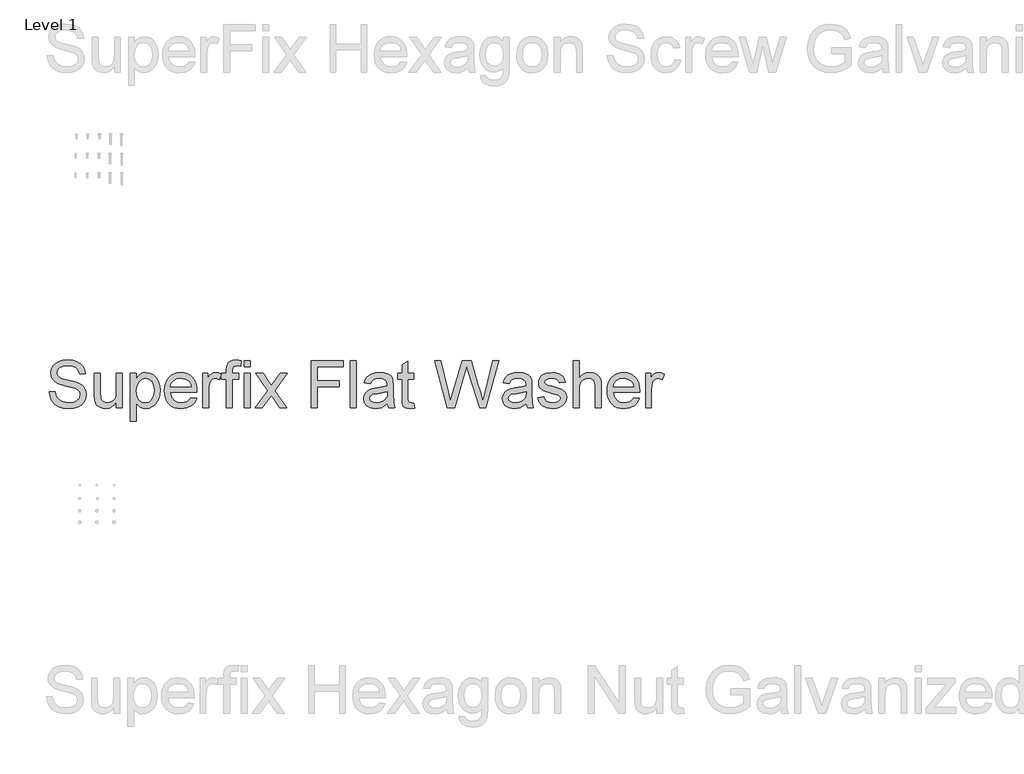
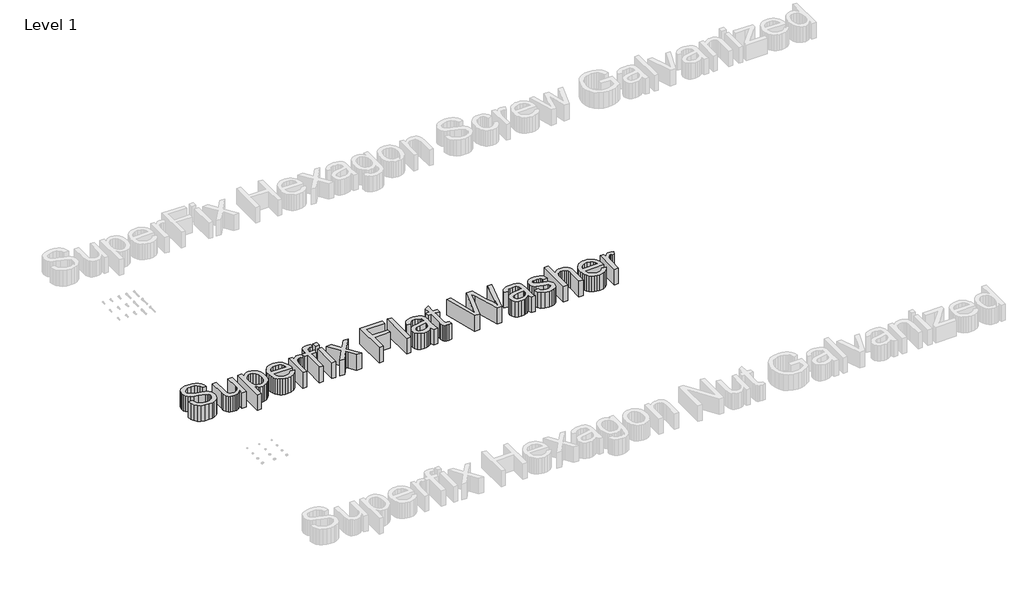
# One storey, part 18 of 32: 1 proxy.
"""IFC4 building model written with IfcOpenShell, lengths in millimetres."""

from ifc_helpers import new_model, si_unit, origin, origin_with_axes, place, context, project, spatial, polyline, outline, extrude, element, save

model = new_model("IFC4")

# Units and contexts
model_context = context("Model", 3, world=origin())
ifc_project = project(units=[si_unit("LENGTHUNIT", "METRE", prefix="MILLI")], contexts=[model_context])

# Site, building, storey
site = spatial("IfcSite", under=ifc_project)
building = spatial("IfcBuilding", under=site)
storey = spatial("IfcBuildingStorey", under=building, Name="Level 1", Elevation=0.0)

# Proxy
placement = place(None, origin())
element("IfcBuildingElementProxy", 1, Name="300mm Arial 2", ObjectType="300mm Arial 2", at=placement, inside=storey, context=model_context, shape_type="SweptSolid", body=[
    extrude(outline(polyline([(-40564.5247178, 12550.5833621), (-40526.8536015, 12550.5833621), (-40522.5309881, 12529.6784678), (-40514.7134957, 12512.8754576), (-40502.5182075, 12499.5397353), (-40485.0622069, 12489.0367044), (-40463.7250512, 12482.2216904), (-40439.8862979, 12479.9500191), (-40418.89863, 12481.6698674), (-40400.5229244, 12486.8294124), (-40385.6329006, 12494.9963927), (-40375.1022785, 12505.7385469), (-40368.8390875, 12518.0717908), (-40366.7513572, 12531.01204), (-40368.3148557, 12543.6211954), (-40373.0053511, 12554.5196995), (-40382.5334948, 12563.8179169), (-40398.609938, 12571.6262123), (-40453.4611435, 12586.0103983), (-40489.4675938, 12595.5293449), (-40512.5062037, 12604.588439), (-40531.2589884, 12617.2619738), (-40544.5487255, 12632.6210471), (-40552.4673854, 12650.3345651), (-40555.1069388, 12670.0714342), (-40551.841986, 12692.1351568), (-40542.0471279, 12712.7089574), (-40525.9798818, 12730.146564), (-40503.897765, 12742.8017046), (-40477.3918673, 12750.4996354), (-40448.0532782, 12753.0656123), (-40416.2682738, 12750.3800737), (-40388.4563949, 12742.323458), (-40365.610923, 12729.0613121), (-40348.7251395, 12710.7591828), (-40338.0381675, 12688.5575044), (-40333.7891305, 12663.5967111), (-40371.4602468, 12663.5967111), (-40378.3764283, 12686.074301), (-40392.7974025, 12702.297897), (-40415.3301747, 12712.1203462), (-40446.5817502, 12715.394496), (-40478.5690897, 12712.1571344), (-40500.5132507, 12702.4450498), (-40513.2051795, 12688.1528342), (-40517.4358224, 12671.1750802), (-40514.4375842, 12656.6989237), (-40505.4428694, 12645.0554585), (-40484.1792901, 12634.644398), (-40443.9329998, 12624.0126084), (-40402.3991226, 12613.9142476), (-40377.2727823, 12605.1034738), (-40355.7976708, 12591.4366577), (-40340.8156766, 12574.5692682), (-40332.0140998, 12554.6852464), (-40329.0802409, 12531.9685332), (-40332.4555582, 12508.7459822), (-40342.5815101, 12486.9029888), (-40359.0442294, 12468.1042188), (-40381.4298488, 12454.0143384), (-40408.3496138, 12445.2127617), (-40438.4147699, 12442.2789028), (-40475.322531, 12445.4426879), (-40505.7003868, 12454.9340434), (-40529.897825, 12470.7897574), (-40548.2643336, 12493.0466181), (-40560.0549516, 12520.1595211), (-40564.5247178, 12550.5833621)])), origin_with_axes(), (0.0, 0.0, 1.0), 150.0),
    extrude(outline(polyline([(-40136.0157698, 12446.9877923), (-40136.0157698, 12485.0267906), (-40149.6457978, 12466.3245897), (-40165.5199059, 12452.9658747), (-40183.6380941, 12444.9506458), (-40204.0003626, 12442.2789028), (-40222.3484771, 12444.1551009), (-40239.4273987, 12449.7836955), (-40253.7564024, 12458.2449814), (-40263.8547632, 12468.6192536), (-40275.075164, 12496.3575561), (-40277.282456, 12531.379922), (-40277.282456, 12668.3056006), (-40239.6113397, 12668.3056006), (-40239.6113397, 12549.1118342), (-40237.3304713, 12510.7049539), (-40231.8398325, 12497.8934634), (-40222.4312505, 12488.1537876), (-40209.7301246, 12482.0009612), (-40194.3618543, 12479.9500191), (-40178.1106671, 12482.0469464), (-40162.9079437, 12488.3377286), (-40150.3723647, 12498.2429513), (-40142.122611, 12511.1832005), (-40137.5424801, 12528.9059156), (-40136.0157698, 12553.1585361), (-40136.0157698, 12668.3056006), (-40098.3446535, 12668.3056006), (-40098.3446535, 12446.9877923), (-40136.0157698, 12446.9877923)])), origin_with_axes(), (0.0, 0.0, 1.0), 150.0),
    extrude(outline(polyline([(-40046.5468686, 12362.2277806), (-40046.5468686, 12668.3056006), (-40008.8757523, 12668.3056006), (-40008.8757523, 12631.3702483), (-39996.5884937, 12649.5896041), (-39982.8297071, 12662.6034297), (-39966.7900521, 12670.411725), (-39947.6601883, 12673.0144901), (-39922.1843602, 12669.3724584), (-39899.9091053, 12658.4463631), (-39881.772523, 12640.898392), (-39868.7127122, 12617.3907325), (-39860.8216434, 12589.6340359), (-39858.1912871, 12559.3389536), (-39861.1619342, 12527.1216879), (-39870.0738755, 12498.3073306), (-39884.6420025, 12474.3582127), (-39904.5812067, 12456.7366652), (-39927.8037576, 12445.8933434), (-39952.2219251, 12442.2789028), (-39969.53997, 12444.6977269), (-39985.0002108, 12451.9541992), (-39998.2347656, 12462.9078856), (-40008.8757523, 12476.4183519), (-40008.8757523, 12362.2277806), (-40046.5468686, 12362.2277806)]), holes=[polyline([(-40008.8757523, 12555.8808629), (-40004.8014592, 12522.1092957), (-39992.5785799, 12498.4912716), (-39974.5431651, 12484.5853322), (-39953.0312654, 12479.9500191), (-39931.1698779, 12484.7508791), (-39912.6746106, 12499.1534592), (-39900.0654552, 12523.636006), (-39895.8624034, 12558.676766), (-39899.9642876, 12592.2643922), (-39912.2699404, 12616.2135101), (-39930.277764, 12630.5609079), (-39951.4861611, 12635.3433738), (-39972.7773315, 12630.2574053), (-39991.4749339, 12614.9994995), (-40004.5255477, 12590.0479032), (-40008.8757523, 12555.8808629)])]), origin_with_axes(), (0.0, 0.0, 1.0), 150.0),
    extrude(outline(polyline([(-39660.8593849, 12512.9122458), (-39623.9240326, 12508.2033563), (-39637.2321637, 12480.3730834), (-39658.4681519, 12459.5693565), (-39687.1537505, 12446.6015162), (-39722.8107129, 12442.2789028), (-39746.1850151, 12444.1436046), (-39767.0117346, 12449.7377102), (-39785.2908712, 12459.0612195), (-39801.022425, 12472.1141326), (-39813.6729671, 12488.5331659), (-39822.7090687, 12507.955036), (-39828.1307296, 12530.3797428), (-39829.9379499, 12555.8072865), (-39828.1123355, 12582.0970536), (-39822.6354923, 12605.2690207), (-39813.5074203, 12625.323188), (-39800.7281194, 12642.2595553), (-39785.0379523, 12655.7148393), (-39767.1772815, 12665.3257564), (-39747.1461068, 12671.0923067), (-39724.9444284, 12673.0144901), (-39703.4578207, 12671.0969052), (-39684.0267535, 12665.3441505), (-39666.651227, 12655.756226), (-39651.3312412, 12642.3331317), (-39638.8255526, 12625.4335526), (-39629.8929179, 12605.4161735), (-39624.5333371, 12582.2809946), (-39622.7468102, 12556.0280157), (-39622.9675394, 12545.8744726), (-39792.2668336, 12545.8744726), (-39785.7461252, 12517.6763177), (-39770.598584, 12496.9461673), (-39748.7371965, 12484.1990561), (-39722.0749489, 12479.9500191), (-39702.0253801, 12481.9181878), (-39685.1395966, 12487.8226938), (-39671.4175981, 12498.0314191), (-39660.8593849, 12512.9122458)]), holes=[polyline([(-39792.2668336, 12583.5455889), (-39660.4179265, 12583.5455889), (-39665.5130921, 12603.4480049), (-39675.5010883, 12617.6850381), (-39697.4636434, 12630.9287899), (-39725.0915812, 12635.3433738), (-39750.484636, 12631.8209037), (-39771.4815008, 12621.2534934), (-39786.077219, 12604.7815771), (-39792.2668336, 12583.5455889)])]), origin_with_axes(), (0.0, 0.0, 1.0), 150.0),
    extrude(outline(polyline([(-39585.0756939, 12446.9877923), (-39585.0756939, 12668.3056006), (-39552.1134671, 12668.3056006), (-39552.1134671, 12635.564103), (-39539.9365731, 12654.546814), (-39528.7161722, 12665.7304266), (-39517.4589832, 12671.1934743), (-39505.1717245, 12673.0144901), (-39486.4097428, 12670.1082224), (-39467.3534554, 12661.3894191), (-39479.9350196, 12627.6178519), (-39493.1787715, 12633.4119934), (-39506.4225233, 12635.3433738), (-39517.6705153, 12633.4855698), (-39527.7228908, 12627.9121575), (-39535.8438859, 12619.0462015), (-39541.2977364, 12607.3107658), (-39545.8778673, 12586.2679157), (-39547.4045776, 12563.3120792), (-39547.4045776, 12446.9877923), (-39585.0756939, 12446.9877923)])), origin_with_axes(), (0.0, 0.0, 1.0), 150.0),
    extrude(outline(polyline([(-39434.3912286, 12446.9877923), (-39434.3912286, 12630.6344843), (-39467.3534554, 12630.6344843), (-39467.3534554, 12668.3056006), (-39434.3912286, 12668.3056006), (-39434.3912286, 12690.5992495), (-39430.4181031, 12722.0163719), (-39422.839734, 12734.5427538), (-39411.1410866, 12744.4571736), (-39394.7703378, 12750.9135026), (-39373.1756646, 12753.0656123), (-39338.8154863, 12748.9453339), (-39344.3337162, 12713.6286624), (-39366.0387539, 12715.394496), (-39380.3585606, 12713.8309975), (-39389.7671426, 12709.1405021), (-39394.9818699, 12700.1825755), (-39396.7201123, 12685.8167836), (-39396.7201123, 12668.3056006), (-39354.3401065, 12668.3056006), (-39354.3401065, 12630.6344843), (-39396.7201123, 12630.6344843), (-39396.7201123, 12446.9877923), (-39434.3912286, 12446.9877923)])), origin_with_axes(), (0.0, 0.0, 1.0), 150.0),
    extrude(outline(polyline([(-39321.3778797, 12446.9877923), (-39321.3778797, 12668.3056006), (-39283.7067634, 12668.3056006), (-39283.7067634, 12446.9877923), (-39321.3778797, 12446.9877923)])), origin_with_axes(), (0.0, 0.0, 1.0), 150.0),
    extrude(outline(polyline([(-39321.3778797, 12710.6856065), (-39321.3778797, 12748.3567228), (-39283.7067634, 12748.3567228), (-39283.7067634, 12710.6856065), (-39321.3778797, 12710.6856065)])), origin_with_axes(), (0.0, 0.0, 1.0), 150.0),
    extrude(outline(polyline([(-39250.7445367, 12446.9877923), (-39170.2519561, 12558.2353076), (-39246.0356471, 12668.3056006), (-39200.7125853, 12668.3056006), (-39164.145115, 12615.3305933), (-39147.0753904, 12590.3146176), (-39132.2865342, 12610.7688566), (-39090.6422924, 12668.3056006), (-39045.3192305, 12668.3056006), (-39124.9288943, 12558.2353076), (-39048.2622865, 12446.9877923), (-39093.5853483, 12446.9877923), (-39139.7177505, 12513.868739), (-39148.1790364, 12526.0824213), (-39205.4214748, 12446.9877923), (-39250.7445367, 12446.9877923)])), origin_with_axes(), (0.0, 0.0, 1.0), 150.0),
    extrude(outline(polyline([(-38892.8689317, 12446.9877923), (-38892.8689317, 12748.3567228), (-38690.3866816, 12748.3567228), (-38690.3866816, 12710.6856065), (-38855.1978154, 12710.6856065), (-38855.1978154, 12621.2167052), (-38713.9311293, 12621.2167052), (-38713.9311293, 12583.5455889), (-38855.1978154, 12583.5455889), (-38855.1978154, 12446.9877923), (-38892.8689317, 12446.9877923)])), origin_with_axes(), (0.0, 0.0, 1.0), 150.0),
    extrude(outline(polyline([(-38643.2977862, 12446.9877923), (-38643.2977862, 12748.3567228), (-38605.6266699, 12748.3567228), (-38605.6266699, 12446.9877923), (-38643.2977862, 12446.9877923)])), origin_with_axes(), (0.0, 0.0, 1.0), 150.0),
    extrude(outline(polyline([(-38407.8533093, 12475.2411295), (-38425.8519359, 12459.8084798), (-38444.3839914, 12449.7101191), (-38463.8725401, 12444.1367068), (-38484.7406463, 12442.2789028), (-38516.222148, 12446.748669), (-38539.444699, 12460.1579677), (-38553.7645056, 12480.5202362), (-38558.5377745, 12505.8489115), (-38556.7351528, 12521.4655022), (-38551.3272874, 12535.6473531), (-38542.9855632, 12547.787459), (-38532.3813647, 12557.2788145), (-38506.0042256, 12569.6396495), (-38473.4098808, 12575.3050322), (-38434.892636, 12581.2647205), (-38408.0740385, 12588.2544785), (-38407.8533093, 12596.6421879), (-38410.4468774, 12613.4543951), (-38418.2275816, 12624.4540668), (-38435.6283999, 12632.6210471), (-38459.8718234, 12635.3433738), (-38482.3126251, 12633.531555), (-38497.9843981, 12628.0960985), (-38508.6713701, 12618.043723), (-38516.1577687, 12602.3811471), (-38553.828885, 12607.0900366), (-38547.2897825, 12627.6914283), (-38537.5317126, 12643.8782361), (-38523.6441673, 12656.2574653), (-38504.7166386, 12665.436121), (-38481.5676641, 12671.1198979), (-38455.0157811, 12673.0144901), (-38429.54915, 12671.3406271), (-38409.3616255, 12666.3190378), (-38394.1405079, 12658.7682599), (-38383.5730976, 12649.5068307), (-38376.5649456, 12638.0565036), (-38372.021603, 12623.939032), (-38370.182193, 12590.9768052), (-38370.182193, 12544.108639), (-38368.2692066, 12478.6624321), (-38360.7644139, 12446.9877923), (-38398.4355302, 12446.9877923), (-38407.8533093, 12475.2411295)]), holes=[polyline([(-38407.8533093, 12550.5833621), (-38468.6274149, 12539.0318675), (-38501.0378187, 12532.9250264), (-38515.7163103, 12522.9922125), (-38520.8666582, 12508.4976619), (-38518.061558, 12497.2956551), (-38509.6462574, 12488.1169994), (-38495.8046973, 12481.9917641), (-38476.7208188, 12479.9500191), (-38456.4873091, 12482.2032963), (-38438.6082441, 12488.963128), (-38424.1136935, 12498.923533), (-38414.0337268, 12510.7785303), (-38409.5639606, 12522.9922125), (-38408.0740385, 12539.9147843), (-38407.8533093, 12550.5833621)])]), origin_with_axes(), (0.0, 0.0, 1.0), 150.0),
    extrude(outline(polyline([(-38238.3332859, 12478.4049147), (-38233.6243964, 12445.8841463), (-38261.8041572, 12442.2789028), (-38279.8855573, 12443.8424012), (-38293.3684324, 12448.5328967), (-38302.8965761, 12455.7617779), (-38309.1137818, 12464.9404337), (-38312.5350844, 12480.7041772), (-38313.6755185, 12507.6883215), (-38313.6755185, 12630.6344843), (-38341.9288558, 12630.6344843), (-38341.9288558, 12668.3056006), (-38313.6755185, 12668.3056006), (-38313.6755185, 12722.0899483), (-38276.0044022, 12744.2364444), (-38276.0044022, 12668.3056006), (-38238.3332859, 12668.3056006), (-38238.3332859, 12630.6344843), (-38276.0044022, 12630.6344843), (-38276.0044022, 12508.7919675), (-38274.0178395, 12489.3677982), (-38267.5799045, 12482.4884048), (-38254.7408229, 12479.9500191), (-38238.3332859, 12478.4049147)])), origin_with_axes(), (0.0, 0.0, 1.0), 150.0),
    extrude(outline(polyline([(-38024.2995411, 12446.9877923), (-38106.4843789, 12748.3567228), (-38067.6360402, 12748.3567228), (-38019.9585336, 12550.2890566), (-38005.2432538, 12489.147069), (-37989.4979044, 12543.2257222), (-37929.7538684, 12748.3567228), (-37873.7622287, 12748.3567228), (-37830.3521533, 12599.6588203), (-37811.7557184, 12544.476521), (-37798.0521141, 12489.147069), (-37783.7782927, 12548.523223), (-37735.6593277, 12748.3567228), (-37696.810989, 12748.3567228), (-37779.0694031, 12446.9877923), (-37819.3156934, 12446.9877923), (-37891.5677173, 12679.4892133), (-37901.6476839, 12711.9364052), (-37912.9784494, 12672.8673373), (-37978.8293265, 12446.9877923), (-38024.2995411, 12446.9877923)])), origin_with_axes(), (0.0, 0.0, 1.0), 150.0),
    extrude(outline(polyline([(-37522.5820761, 12475.2411295), (-37540.5807027, 12459.8084798), (-37559.1127582, 12449.7101191), (-37578.6013069, 12444.1367068), (-37599.4694131, 12442.2789028), (-37630.9509148, 12446.748669), (-37654.1734658, 12460.1579677), (-37668.4932724, 12480.5202362), (-37673.2665413, 12505.8489115), (-37671.4639196, 12521.4655022), (-37666.0560542, 12535.6473531), (-37657.71433, 12547.787459), (-37647.1101315, 12557.2788145), (-37620.7329924, 12569.6396495), (-37588.1386477, 12575.3050322), (-37549.6214028, 12581.2647205), (-37522.8028053, 12588.2544785), (-37522.5820761, 12596.6421879), (-37525.1756442, 12613.4543951), (-37532.9563484, 12624.4540668), (-37550.3571667, 12632.6210471), (-37574.6005902, 12635.3433738), (-37597.0413919, 12633.531555), (-37612.7131649, 12628.0960985), (-37623.4001369, 12618.043723), (-37630.8865355, 12602.3811471), (-37668.5576518, 12607.0900366), (-37662.0185493, 12627.6914283), (-37652.2604794, 12643.8782361), (-37638.3729341, 12656.2574653), (-37619.4454054, 12665.436121), (-37596.2964309, 12671.1198979), (-37569.7445479, 12673.0144901), (-37544.2779168, 12671.3406271), (-37524.0903923, 12666.3190378), (-37508.8692747, 12658.7682599), (-37498.3018644, 12649.5068307), (-37491.2937124, 12638.0565036), (-37486.7503698, 12623.939032), (-37484.9109598, 12590.9768052), (-37484.9109598, 12544.108639), (-37482.9979734, 12478.6624321), (-37475.4931807, 12446.9877923), (-37513.164297, 12446.9877923), (-37522.5820761, 12475.2411295)]), holes=[polyline([(-37522.5820761, 12550.5833621), (-37583.3561817, 12539.0318675), (-37615.7665855, 12532.9250264), (-37630.4450771, 12522.9922125), (-37635.595425, 12508.4976619), (-37632.7903248, 12497.2956551), (-37624.3750242, 12488.1169994), (-37610.5334641, 12481.9917641), (-37591.4495856, 12479.9500191), (-37571.2160759, 12482.2032963), (-37553.3370109, 12488.963128), (-37538.8424603, 12498.923533), (-37528.7624936, 12510.7785303), (-37524.2927274, 12522.9922125), (-37522.8028053, 12539.9147843), (-37522.5820761, 12550.5833621)])]), origin_with_axes(), (0.0, 0.0, 1.0), 150.0),
    extrude(outline(polyline([(-37447.2398435, 12512.9122458), (-37409.5687272, 12517.6211354), (-37403.627433, 12501.507904), (-37392.1311206, 12489.6621037), (-37375.0062137, 12482.3780402), (-37352.1791359, 12479.9500191), (-37329.6279696, 12482.1757051), (-37313.7722556, 12488.8527634), (-37304.3912648, 12498.5280598), (-37301.2642678, 12509.7484607), (-37304.4096589, 12519.3501808), (-37313.845832, 12526.6710325), (-37352.6205943, 12537.4131867), (-37409.347998, 12555.8440747), (-37423.7045929, 12565.1055039), (-37434.1064563, 12577.3651714), (-37440.4248295, 12591.8413279), (-37442.530954, 12607.7522242), (-37440.8386968, 12622.3479424), (-37435.7619253, 12635.8216204), (-37427.7604919, 12647.6398295), (-37417.2942491, 12657.2691408), (-37393.3451312, 12668.4159652), (-37360.9347274, 12673.0144901), (-37336.4153925, 12671.1658831), (-37315.0966308, 12665.620062), (-37297.9533299, 12656.9196529), (-37285.9603768, 12645.6072815), (-37278.0141257, 12630.8460164), (-37273.0109306, 12611.7989261), (-37310.6820469, 12607.0900366), (-37315.4369217, 12618.9450339), (-37324.8455037, 12627.8753693), (-37338.9997635, 12633.4763727), (-37357.9916715, 12635.3433738), (-37379.6231328, 12633.5591462), (-37394.044107, 12628.2064631), (-37402.155905, 12620.4809412), (-37404.8598377, 12611.578197), (-37400.3716773, 12600.6153135), (-37386.3185851, 12592.3011804), (-37353.8713931, 12584.2813529), (-37298.5787292, 12566.5494407), (-37283.973814, 12558.0697608), (-37272.900566, 12546.4630838), (-37265.9200051, 12531.6926217), (-37263.5931515, 12513.7215862), (-37266.3246753, 12495.1435455), (-37274.5192468, 12477.6691507), (-37287.8641661, 12462.6687624), (-37306.0467338, 12451.5127408), (-37328.0092889, 12444.5873623), (-37352.6941707, 12442.2789028), (-37390.6779867, 12446.7302749), (-37418.3978951, 12460.0843913), (-37436.9023594, 12482.1940992), (-37447.2398435, 12512.9122458)])), origin_with_axes(), (0.0, 0.0, 1.0), 150.0),
    extrude(outline(polyline([(-37221.2131457, 12446.9877923), (-37221.2131457, 12748.3567228), (-37183.5420294, 12748.3567228), (-37183.5420294, 12637.5506658), (-37169.7050678, 12653.066089), (-37154.166652, 12664.1485341), (-37136.926782, 12670.7980011), (-37117.9854578, 12673.0144901), (-37095.2319564, 12670.595666), (-37075.6790284, 12663.3391937), (-37060.2831669, 12651.8152902), (-37050.0008651, 12636.5941726), (-37044.2067237, 12615.6800812), (-37042.2753432, 12587.0772561), (-37042.2753432, 12446.9877923), (-37079.9464595, 12446.9877923), (-37079.9464595, 12583.1777069), (-37082.9446978, 12606.7589428), (-37091.9394126, 12622.9089624), (-37106.4339632, 12632.234771), (-37125.9317089, 12635.3433738), (-37141.8518023, 12633.2464465), (-37156.7970083, 12626.9556643), (-37169.1762374, 12617.0780328), (-37177.3984, 12604.220557), (-37182.006122, 12587.1324384), (-37183.5420294, 12564.562878), (-37183.5420294, 12446.9877923), (-37221.2131457, 12446.9877923)])), origin_with_axes(), (0.0, 0.0, 1.0), 150.0),
    extrude(outline(polyline([(-36835.5256619, 12512.9122458), (-36798.5903096, 12508.2033563), (-36811.8984408, 12480.3730834), (-36833.134429, 12459.5693565), (-36861.8200275, 12446.6015162), (-36897.4769899, 12442.2789028), (-36920.8512922, 12444.1436046), (-36941.6780116, 12449.7377102), (-36959.9571483, 12459.0612195), (-36975.6887021, 12472.1141326), (-36988.3392442, 12488.5331659), (-36997.3753457, 12507.955036), (-37002.7970066, 12530.3797428), (-37004.6042269, 12555.8072865), (-37002.7786125, 12582.0970536), (-36997.3017693, 12605.2690207), (-36988.1736973, 12625.323188), (-36975.3943965, 12642.2595553), (-36959.7042294, 12655.7148393), (-36941.8435585, 12665.3257564), (-36921.8123839, 12671.0923067), (-36899.6107055, 12673.0144901), (-36878.1240977, 12671.0969052), (-36858.6930306, 12665.3441505), (-36841.3175041, 12655.756226), (-36825.9975182, 12642.3331317), (-36813.4918297, 12625.4335526), (-36804.559195, 12605.4161735), (-36799.1996142, 12582.2809946), (-36797.4130872, 12556.0280157), (-36797.6338164, 12545.8744726), (-36966.9331106, 12545.8744726), (-36960.4124022, 12517.6763177), (-36945.2648611, 12496.9461673), (-36923.4034735, 12484.1990561), (-36896.7412259, 12479.9500191), (-36876.6916572, 12481.9181878), (-36859.8058736, 12487.8226938), (-36846.0838752, 12498.0314191), (-36835.5256619, 12512.9122458)]), holes=[polyline([(-36966.9331106, 12583.5455889), (-36835.0842035, 12583.5455889), (-36840.1793692, 12603.4480049), (-36850.1673653, 12617.6850381), (-36872.1299204, 12630.9287899), (-36899.7578583, 12635.3433738), (-36925.150913, 12631.8209037), (-36946.1477779, 12621.2534934), (-36960.743496, 12604.7815771), (-36966.9331106, 12583.5455889)])]), origin_with_axes(), (0.0, 0.0, 1.0), 150.0),
    extrude(outline(polyline([(-36759.7419709, 12446.9877923), (-36759.7419709, 12668.3056006), (-36726.7797441, 12668.3056006), (-36726.7797441, 12635.564103), (-36714.6028501, 12654.546814), (-36703.3824493, 12665.7304266), (-36692.1252602, 12671.1934743), (-36679.8380016, 12673.0144901), (-36661.0760198, 12670.1082224), (-36642.0197325, 12661.3894191), (-36654.6012967, 12627.6178519), (-36667.8450485, 12633.4119934), (-36681.0888003, 12635.3433738), (-36692.3367923, 12633.4855698), (-36702.3891679, 12627.9121575), (-36710.5101629, 12619.0462015), (-36715.9640135, 12607.3107658), (-36720.5441443, 12586.2679157), (-36722.0708546, 12563.3120792), (-36722.0708546, 12446.9877923), (-36759.7419709, 12446.9877923)])), origin_with_axes(), (0.0, 0.0, 1.0), 150.0),
])

save(model, "model.ifc")
